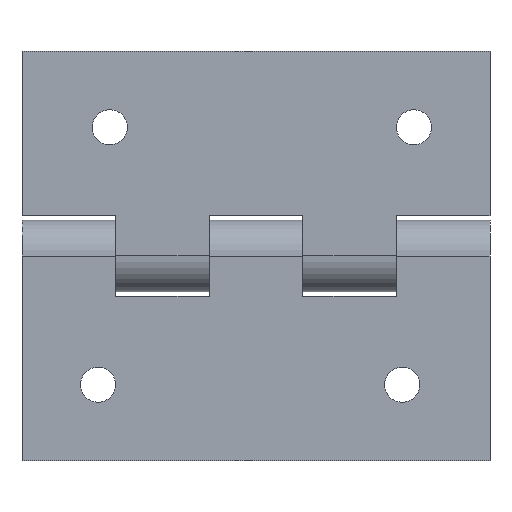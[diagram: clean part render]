
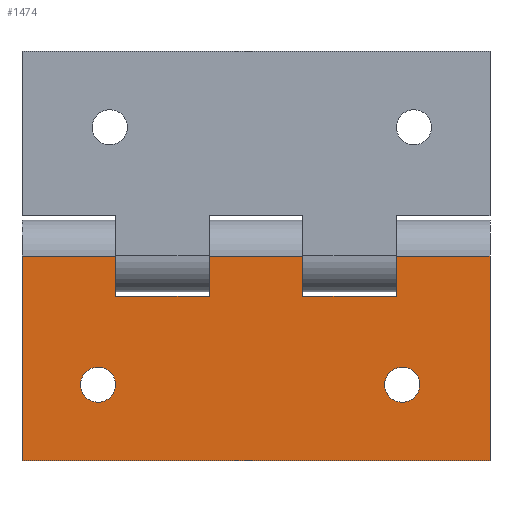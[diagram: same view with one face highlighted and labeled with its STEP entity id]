
A CAD part, front view. The second image highlights one B-rep face of the part: STEP entity #1474.
In plain terms, the highlighted planar face has unit normal (0, -1, 0).
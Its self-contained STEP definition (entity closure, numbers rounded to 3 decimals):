
#34 = AXIS2_PLACEMENT_3D ( 'NONE', #587, #2055, #359 ) ;
#42 = CIRCLE ( 'NONE', #401, 1.5 ) ;
#49 = EDGE_CURVE ( 'NONE', #2052, #1475, #444, .T. ) ;
#118 = CARTESIAN_POINT ( 'NONE',  ( 20., 0., 0. ) ) ;
#119 = ORIENTED_EDGE ( 'NONE', *, *, #383, .F. ) ;
#125 = LINE ( 'NONE', #2029, #1571 ) ;
#127 = VERTEX_POINT ( 'NONE', #265 ) ;
#132 = CARTESIAN_POINT ( 'NONE',  ( -12., 0., 0. ) ) ;
#133 = CARTESIAN_POINT ( 'NONE',  ( -20., 0., 0. ) ) ;
#162 = DIRECTION ( 'NONE',  ( 0., 0., 1. ) ) ;
#165 = DIRECTION ( 'NONE',  ( -1., 0., 0. ) ) ;
#198 = EDGE_CURVE ( 'NONE', #623, #2674, #1421, .T. ) ;
#201 = EDGE_CURVE ( 'NONE', #1320, #2427, #363, .T. ) ;
#208 = VECTOR ( 'NONE', #378, 1000. ) ;
#216 = DIRECTION ( 'NONE',  ( -1., 0., 0. ) ) ;
#228 = DIRECTION ( 'NONE',  ( 0., 0., 1. ) ) ;
#245 = LINE ( 'NONE', #2079, #395 ) ;
#265 = CARTESIAN_POINT ( 'NONE',  ( -12., 0., -3.45 ) ) ;
#289 = LINE ( 'NONE', #2347, #1844 ) ;
#295 = ORIENTED_EDGE ( 'NONE', *, *, #491, .T. ) ;
#340 = CARTESIAN_POINT ( 'NONE',  ( 20., 0., 0. ) ) ;
#354 = ORIENTED_EDGE ( 'NONE', *, *, #2583, .T. ) ;
#357 = EDGE_LOOP ( 'NONE', ( #2369, #1489, #1836, #379, #1043, #645, #419, #935, #119, #1715, #520, #295 ) ) ;
#359 = DIRECTION ( 'NONE',  ( 0., 0., 1. ) ) ;
#363 = LINE ( 'NONE', #2625, #208 ) ;
#365 = EDGE_LOOP ( 'NONE', ( #1315, #354 ) ) ;
#378 = DIRECTION ( 'NONE',  ( 0., 0., -1. ) ) ;
#379 = ORIENTED_EDGE ( 'NONE', *, *, #1964, .T. ) ;
#383 = EDGE_CURVE ( 'NONE', #2294, #1757, #245, .T. ) ;
#395 = VECTOR ( 'NONE', #1876, 1000. ) ;
#401 = AXIS2_PLACEMENT_3D ( 'NONE', #2012, #1816, #162 ) ;
#411 = CARTESIAN_POINT ( 'NONE',  ( 12.5, 0., -12.5 ) ) ;
#412 = DIRECTION ( 'NONE',  ( 0., 1., 0. ) ) ;
#416 = EDGE_CURVE ( 'NONE', #127, #822, #851, .T. ) ;
#419 = ORIENTED_EDGE ( 'NONE', *, *, #2275, .T. ) ;
#438 = FACE_BOUND ( 'NONE', #365, .T. ) ;
#444 = LINE ( 'NONE', #2554, #879 ) ;
#451 = FACE_BOUND ( 'NONE', #1661, .T. ) ;
#491 = EDGE_CURVE ( 'NONE', #2427, #2052, #289, .T. ) ;
#520 = ORIENTED_EDGE ( 'NONE', *, *, #201, .T. ) ;
#540 = VERTEX_POINT ( 'NONE', #1350 ) ;
#587 = CARTESIAN_POINT ( 'NONE',  ( -13.5, 0., -11. ) ) ;
#623 = VERTEX_POINT ( 'NONE', #1540 ) ;
#639 = EDGE_CURVE ( 'NONE', #540, #1847, #755, .T. ) ;
#645 = ORIENTED_EDGE ( 'NONE', *, *, #1200, .T. ) ;
#661 = AXIS2_PLACEMENT_3D ( 'NONE', #1336, #2158, #1568 ) ;
#665 = DIRECTION ( 'NONE',  ( 0., 0., 1. ) ) ;
#674 = VERTEX_POINT ( 'NONE', #1389 ) ;
#755 = CIRCLE ( 'NONE', #661, 1.5 ) ;
#806 = CIRCLE ( 'NONE', #843, 1.5 ) ;
#822 = VERTEX_POINT ( 'NONE', #132 ) ;
#836 = DIRECTION ( 'NONE',  ( -1., 0., 0. ) ) ;
#843 = AXIS2_PLACEMENT_3D ( 'NONE', #2208, #2240, #2602 ) ;
#851 = LINE ( 'NONE', #1283, #1797 ) ;
#879 = VECTOR ( 'NONE', #1737, 1000. ) ;
#881 = CIRCLE ( 'NONE', #34, 1.5 ) ;
#891 = FACE_OUTER_BOUND ( 'NONE', #357, .T. ) ;
#935 = ORIENTED_EDGE ( 'NONE', *, *, #1459, .F. ) ;
#1031 = VERTEX_POINT ( 'NONE', #2374 ) ;
#1043 = ORIENTED_EDGE ( 'NONE', *, *, #416, .T. ) ;
#1127 = DIRECTION ( 'NONE',  ( -1., 0., 0. ) ) ;
#1182 = AXIS2_PLACEMENT_3D ( 'NONE', #2482, #412, #228 ) ;
#1200 = EDGE_CURVE ( 'NONE', #822, #2239, #2015, .T. ) ;
#1217 = CARTESIAN_POINT ( 'NONE',  ( -4., 0., 3.05 ) ) ;
#1283 = CARTESIAN_POINT ( 'NONE',  ( -12., 0., 3.05 ) ) ;
#1294 = EDGE_CURVE ( 'NONE', #2294, #1320, #125, .T. ) ;
#1315 = ORIENTED_EDGE ( 'NONE', *, *, #639, .T. ) ;
#1317 = CARTESIAN_POINT ( 'NONE',  ( 4., 0., -3.45 ) ) ;
#1320 = VERTEX_POINT ( 'NONE', #2665 ) ;
#1336 = CARTESIAN_POINT ( 'NONE',  ( 12.5, 0., -11. ) ) ;
#1350 = CARTESIAN_POINT ( 'NONE',  ( 12.5, 0., -9.5 ) ) ;
#1389 = CARTESIAN_POINT ( 'NONE',  ( -13.5, 0., -12.5 ) ) ;
#1392 = ORIENTED_EDGE ( 'NONE', *, *, #2630, .T. ) ;
#1401 = VECTOR ( 'NONE', #2044, 1000. ) ;
#1417 = CARTESIAN_POINT ( 'NONE',  ( 20., 0., -17.5 ) ) ;
#1421 = LINE ( 'NONE', #1217, #1401 ) ;
#1448 = VECTOR ( 'NONE', #2022, 1000. ) ;
#1459 = EDGE_CURVE ( 'NONE', #1757, #2557, #2280, .T. ) ;
#1474 = ADVANCED_FACE ( 'NONE', ( #438, #451, #891 ), #2101, .F. ) ;
#1475 = VERTEX_POINT ( 'NONE', #2603 ) ;
#1489 = ORIENTED_EDGE ( 'NONE', *, *, #2621, .T. ) ;
#1540 = CARTESIAN_POINT ( 'NONE',  ( -4., 0., 0. ) ) ;
#1559 = VECTOR ( 'NONE', #165, 1000. ) ;
#1568 = DIRECTION ( 'NONE',  ( 0., 0., 1. ) ) ;
#1571 = VECTOR ( 'NONE', #2043, 1000. ) ;
#1583 = VECTOR ( 'NONE', #1594, 1000. ) ;
#1594 = DIRECTION ( 'NONE',  ( -1., 0., 0. ) ) ;
#1661 = EDGE_LOOP ( 'NONE', ( #1392, #1947 ) ) ;
#1715 = ORIENTED_EDGE ( 'NONE', *, *, #1294, .T. ) ;
#1731 = EDGE_CURVE ( 'NONE', #674, #1031, #881, .T. ) ;
#1737 = DIRECTION ( 'NONE',  ( 0., 0., 1. ) ) ;
#1757 = VERTEX_POINT ( 'NONE', #1417 ) ;
#1797 = VECTOR ( 'NONE', #665, 1000. ) ;
#1816 = DIRECTION ( 'NONE',  ( 0., 1., 0. ) ) ;
#1835 = CARTESIAN_POINT ( 'NONE',  ( -20., 0., 0. ) ) ;
#1836 = ORIENTED_EDGE ( 'NONE', *, *, #198, .T. ) ;
#1844 = VECTOR ( 'NONE', #1127, 1000. ) ;
#1847 = VERTEX_POINT ( 'NONE', #411 ) ;
#1871 = LINE ( 'NONE', #1893, #2056 ) ;
#1876 = DIRECTION ( 'NONE',  ( 0., 0., -1. ) ) ;
#1893 = CARTESIAN_POINT ( 'NONE',  ( -12., 0., -3.45 ) ) ;
#1911 = VECTOR ( 'NONE', #216, 1000. ) ;
#1947 = ORIENTED_EDGE ( 'NONE', *, *, #1731, .T. ) ;
#1964 = EDGE_CURVE ( 'NONE', #2674, #127, #1871, .T. ) ;
#2006 = LINE ( 'NONE', #133, #1448 ) ;
#2012 = CARTESIAN_POINT ( 'NONE',  ( -13.5, 0., -11. ) ) ;
#2015 = LINE ( 'NONE', #2623, #1559 ) ;
#2022 = DIRECTION ( 'NONE',  ( 0., 0., -1. ) ) ;
#2029 = CARTESIAN_POINT ( 'NONE',  ( 20., 0., 0. ) ) ;
#2043 = DIRECTION ( 'NONE',  ( -1., 0., 0. ) ) ;
#2044 = DIRECTION ( 'NONE',  ( 0., 0., -1. ) ) ;
#2052 = VERTEX_POINT ( 'NONE', #1317 ) ;
#2055 = DIRECTION ( 'NONE',  ( 0., 1., 0. ) ) ;
#2056 = VECTOR ( 'NONE', #836, 1000. ) ;
#2079 = CARTESIAN_POINT ( 'NONE',  ( 20., 0., 0. ) ) ;
#2101 = PLANE ( 'NONE',  #1182 ) ;
#2141 = CARTESIAN_POINT ( 'NONE',  ( 12., 0., -3.45 ) ) ;
#2158 = DIRECTION ( 'NONE',  ( 0., 1., 0. ) ) ;
#2180 = CARTESIAN_POINT ( 'NONE',  ( -20., 0., -17.5 ) ) ;
#2208 = CARTESIAN_POINT ( 'NONE',  ( 12.5, 0., -11. ) ) ;
#2239 = VERTEX_POINT ( 'NONE', #1835 ) ;
#2240 = DIRECTION ( 'NONE',  ( 0., 1., 0. ) ) ;
#2275 = EDGE_CURVE ( 'NONE', #2239, #2557, #2006, .T. ) ;
#2280 = LINE ( 'NONE', #2519, #1911 ) ;
#2294 = VERTEX_POINT ( 'NONE', #118 ) ;
#2347 = CARTESIAN_POINT ( 'NONE',  ( 4., 0., -3.45 ) ) ;
#2369 = ORIENTED_EDGE ( 'NONE', *, *, #49, .T. ) ;
#2374 = CARTESIAN_POINT ( 'NONE',  ( -13.5, 0., -9.5 ) ) ;
#2427 = VERTEX_POINT ( 'NONE', #2141 ) ;
#2446 = LINE ( 'NONE', #340, #1583 ) ;
#2482 = CARTESIAN_POINT ( 'NONE',  ( 20., 0., 0. ) ) ;
#2519 = CARTESIAN_POINT ( 'NONE',  ( 20., 0., -17.5 ) ) ;
#2554 = CARTESIAN_POINT ( 'NONE',  ( 4., 0., 3.05 ) ) ;
#2557 = VERTEX_POINT ( 'NONE', #2180 ) ;
#2583 = EDGE_CURVE ( 'NONE', #1847, #540, #806, .T. ) ;
#2602 = DIRECTION ( 'NONE',  ( 0., 0., 1. ) ) ;
#2603 = CARTESIAN_POINT ( 'NONE',  ( 4., 0., 0. ) ) ;
#2621 = EDGE_CURVE ( 'NONE', #1475, #623, #2446, .T. ) ;
#2623 = CARTESIAN_POINT ( 'NONE',  ( 20., 0., 0. ) ) ;
#2625 = CARTESIAN_POINT ( 'NONE',  ( 12., 0., 3.05 ) ) ;
#2630 = EDGE_CURVE ( 'NONE', #1031, #674, #42, .T. ) ;
#2646 = CARTESIAN_POINT ( 'NONE',  ( -4., 0., -3.45 ) ) ;
#2665 = CARTESIAN_POINT ( 'NONE',  ( 12., 0., 0. ) ) ;
#2674 = VERTEX_POINT ( 'NONE', #2646 ) ;
